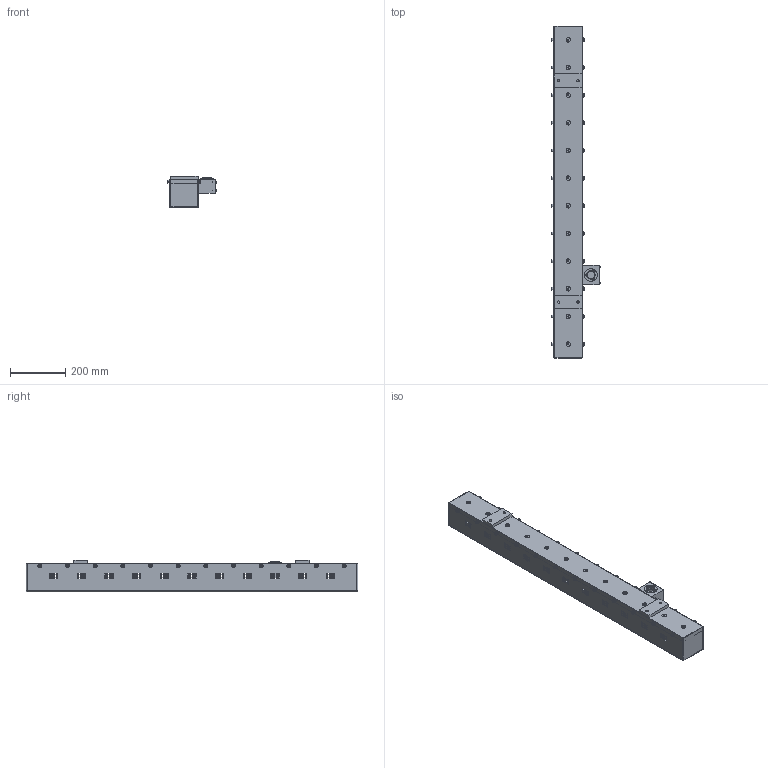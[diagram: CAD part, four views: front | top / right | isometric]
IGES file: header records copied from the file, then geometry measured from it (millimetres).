
Global section: file name: SER-104Wx102Hx1200L-H; native system: unknown; preprocessor: unknown; author: unknown; organization: unknown; date: 20221216.182249; units: millimetre
Bounding box: 176.85 x 1200 x 114 mm (x, y, z)
Volume: 3020899.7 mm3; surface area: 1132645.5 mm2
Topology: 72 solids, 72 shells, 1384 faces, 3627 edges, 2445 vertices
Faces by surface type: bspline 1384
